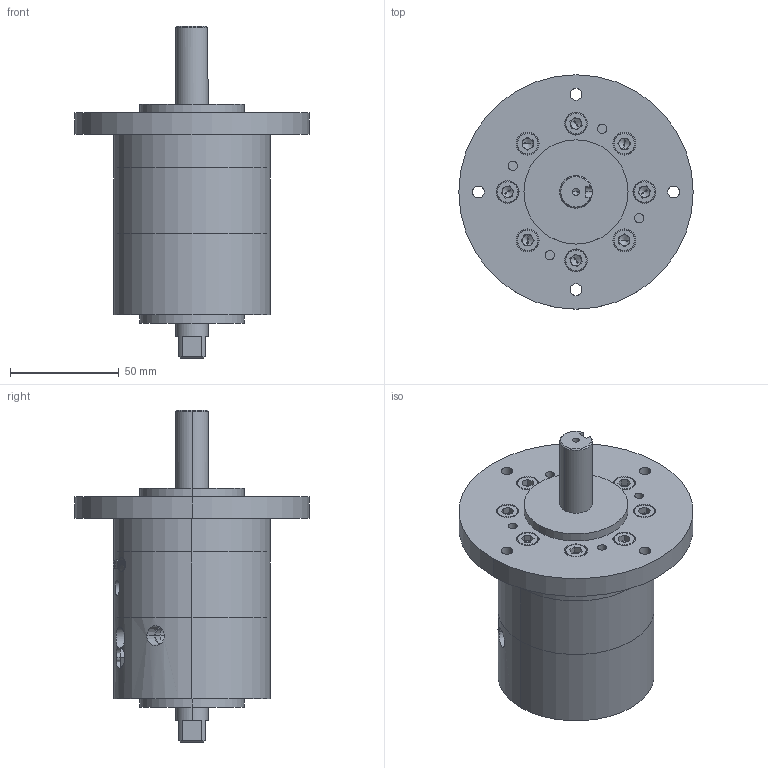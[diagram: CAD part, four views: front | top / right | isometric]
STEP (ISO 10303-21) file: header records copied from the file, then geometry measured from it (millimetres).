
FILE_DESCRIPTION (( 'STEP AP203' ), '1' );
FILE_NAME ('HRN20S-C.STEP', '2016-01-14T16:59:36', ( '' ), ( '' ), 'SwSTEP 2.0', 'SolidWorks 2014', '' );
FILE_SCHEMA (( 'CONFIG_CONTROL_DESIGN' ));
Length unit declared in the file: millimetre
Products named in the file (9): 3; mark-20C; 2; 6; 1; 5; ISO 4762 M6 x 20; 4; HRN20S-C
Assembly tree (24 placements, depth 2):
  HRN20S-C
    1
    2
    3
    4  x2
    5
    6
    mark-20C
    ISO 4762 M6 x 20  x16
Bounding box: 108 x 108 x 153 mm (x, y, z)
Volume: 454289.3 mm3; surface area: 96423.7 mm2
Topology: 30 solids, 30 shells, 787 faces, 1767 edges, 1068 vertices
Faces by surface type: plane 362, cylinder 204, cone 122, torus 64, bspline 35
Entity records: 14361 total; most frequent: CARTESIAN_POINT 5018, DIRECTION 1666, ORIENTED_EDGE 1610, EDGE_CURVE 805, AXIS2_PLACEMENT_3D 680, VERTEX_POINT 525, EDGE_LOOP 428, ADVANCED_FACE 352
